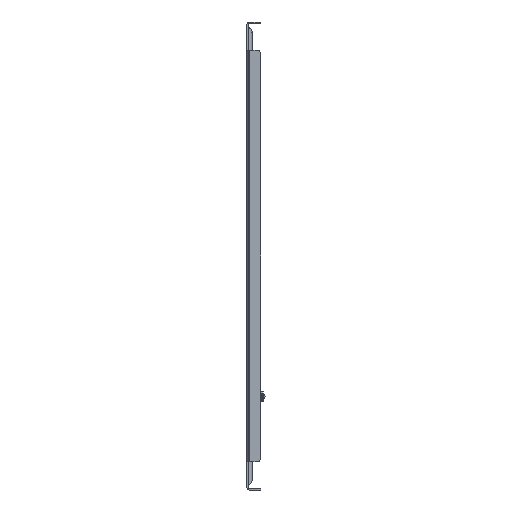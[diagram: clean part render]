
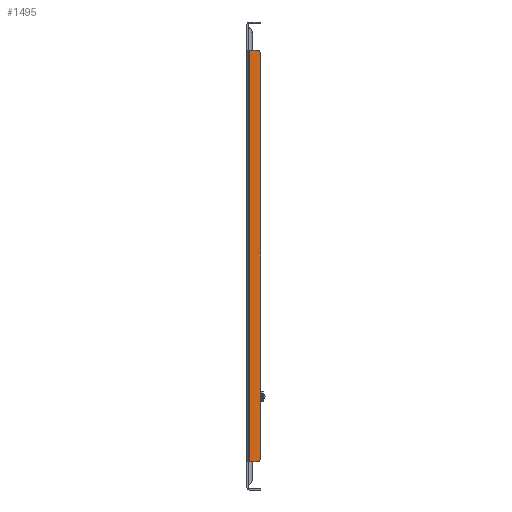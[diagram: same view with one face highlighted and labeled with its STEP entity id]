
A CAD part, left-side view. The second image highlights one B-rep face of the part: STEP entity #1495.
In plain terms, the highlighted planar face has unit normal (-1, 0, 0).
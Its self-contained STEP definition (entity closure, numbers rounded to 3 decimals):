
#151 = EDGE_CURVE ( 'NONE', #1820, #4017, #920, .T. ) ;
#330 = LINE ( 'NONE', #2119, #3635 ) ;
#513 = CARTESIAN_POINT ( 'NONE',  ( -480.921, -15., -245.676 ) ) ;
#748 = VERTEX_POINT ( 'NONE', #2547 ) ;
#818 = DIRECTION ( 'NONE',  ( 0., 0., 1. ) ) ;
#852 = EDGE_LOOP ( 'NONE', ( #1818, #1378, #4118, #3204, #3701, #3308 ) ) ;
#884 = CARTESIAN_POINT ( 'NONE',  ( -480.921, -11., -241.676 ) ) ;
#920 = LINE ( 'NONE', #4637, #3998 ) ;
#972 = CARTESIAN_POINT ( 'NONE',  ( -480.921, -1.524, 245.676 ) ) ;
#1298 = DIRECTION ( 'NONE',  ( 0., 0., -1. ) ) ;
#1329 = DIRECTION ( 'NONE',  ( 0., 0., -1. ) ) ;
#1378 = ORIENTED_EDGE ( 'NONE', *, *, #4227, .T. ) ;
#1495 = ADVANCED_FACE ( 'NONE', ( #3856 ), #2113, .F. ) ;
#1573 = VERTEX_POINT ( 'NONE', #2168 ) ;
#1599 = CARTESIAN_POINT ( 'NONE',  ( -480.921, -1.524, 245.676 ) ) ;
#1687 = LINE ( 'NONE', #3366, #4083 ) ;
#1730 = VERTEX_POINT ( 'NONE', #3076 ) ;
#1818 = ORIENTED_EDGE ( 'NONE', *, *, #4052, .T. ) ;
#1820 = VERTEX_POINT ( 'NONE', #2725 ) ;
#1851 = VECTOR ( 'NONE', #818, 1000. ) ;
#1853 = CARTESIAN_POINT ( 'NONE',  ( -480.921, -11., 241.676 ) ) ;
#2113 = PLANE ( 'NONE',  #3875 ) ;
#2119 = CARTESIAN_POINT ( 'NONE',  ( -480.921, -15., -245.676 ) ) ;
#2168 = CARTESIAN_POINT ( 'NONE',  ( -480.921, -15., 241.676 ) ) ;
#2269 = DIRECTION ( 'NONE',  ( 0., 0., -1. ) ) ;
#2500 = EDGE_CURVE ( 'NONE', #5132, #4017, #5080, .T. ) ;
#2547 = CARTESIAN_POINT ( 'NONE',  ( -480.921, -11., -245.676 ) ) ;
#2599 = DIRECTION ( 'NONE',  ( 0., 1., 0. ) ) ;
#2725 = CARTESIAN_POINT ( 'NONE',  ( -480.921, -11., 245.676 ) ) ;
#3005 = CARTESIAN_POINT ( 'NONE',  ( -480.921, -1.524, -245.676 ) ) ;
#3076 = CARTESIAN_POINT ( 'NONE',  ( -480.921, -15., -241.676 ) ) ;
#3204 = ORIENTED_EDGE ( 'NONE', *, *, #2500, .F. ) ;
#3308 = ORIENTED_EDGE ( 'NONE', *, *, #3860, .T. ) ;
#3366 = CARTESIAN_POINT ( 'NONE',  ( -480.921, -15., -245.676 ) ) ;
#3635 = VECTOR ( 'NONE', #4943, 1000. ) ;
#3692 = DIRECTION ( 'NONE',  ( -1., 0., 0. ) ) ;
#3701 = ORIENTED_EDGE ( 'NONE', *, *, #3897, .T. ) ;
#3719 = DIRECTION ( 'NONE',  ( 1., 0., 0. ) ) ;
#3856 = FACE_OUTER_BOUND ( 'NONE', #852, .T. ) ;
#3860 = EDGE_CURVE ( 'NONE', #748, #1730, #4731, .T. ) ;
#3875 = AXIS2_PLACEMENT_3D ( 'NONE', #513, #3719, #1329 ) ;
#3897 = EDGE_CURVE ( 'NONE', #5132, #748, #330, .T. ) ;
#3924 = AXIS2_PLACEMENT_3D ( 'NONE', #1853, #4686, #2269 ) ;
#3998 = VECTOR ( 'NONE', #2599, 1000. ) ;
#4008 = AXIS2_PLACEMENT_3D ( 'NONE', #884, #3692, #1298 ) ;
#4017 = VERTEX_POINT ( 'NONE', #972 ) ;
#4052 = EDGE_CURVE ( 'NONE', #1730, #1573, #1687, .T. ) ;
#4083 = VECTOR ( 'NONE', #4988, 1000. ) ;
#4118 = ORIENTED_EDGE ( 'NONE', *, *, #151, .T. ) ;
#4144 = CIRCLE ( 'NONE', #3924, 4. ) ;
#4227 = EDGE_CURVE ( 'NONE', #1573, #1820, #4144, .T. ) ;
#4637 = CARTESIAN_POINT ( 'NONE',  ( -480.921, -15., 245.676 ) ) ;
#4686 = DIRECTION ( 'NONE',  ( -1., 0., 0. ) ) ;
#4731 = CIRCLE ( 'NONE', #4008, 4. ) ;
#4943 = DIRECTION ( 'NONE',  ( 0., -1., 0. ) ) ;
#4988 = DIRECTION ( 'NONE',  ( 0., 0., 1. ) ) ;
#5080 = LINE ( 'NONE', #1599, #1851 ) ;
#5132 = VERTEX_POINT ( 'NONE', #3005 ) ;
